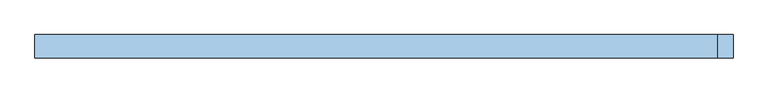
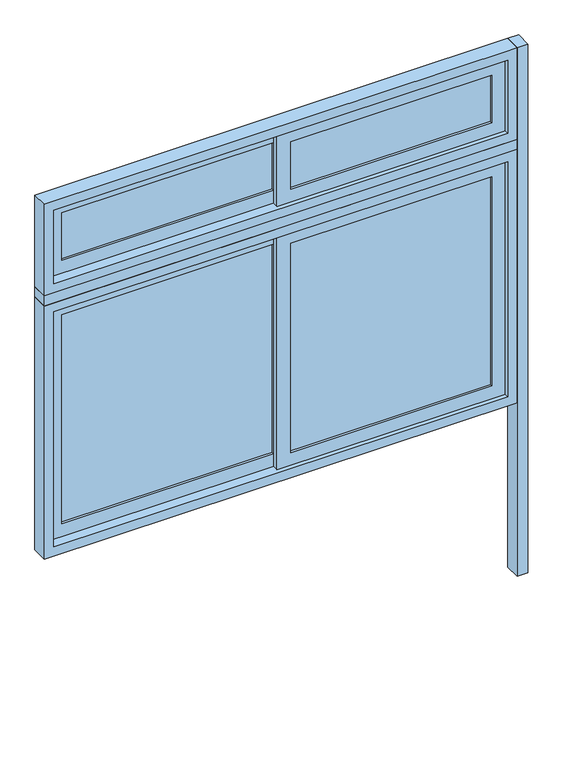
"""IFC4 building model written with IfcOpenShell, lengths in millimetres: window geometry, A4 Cerramiento aula Exterior_vidrios corredizos : A4 Cerramiento aula Exterior_vidrios corredizos."""

from ifc_helpers import new_model, si_unit, frame, origin, origin_with_axes, place, context, project, spatial, polyline, outline, extrude, source, transform, mapped, element, save


def window_2fd942e6(model_context):
    return source(origin(), model_context, "Body", "SweptSolid", [
        extrude(outline(polyline([(1125.0, -92.0), (1075.0, -92.0), (1075.0, -17.0), (1125.0, -17.0), (1125.0, -92.0)])), origin_with_axes(), (0.0, 0.0, 1.0), 2600.0),
        extrude(outline(polyline([(-31.5, -28.0), (-31.5, -34.0), (-1017.0, -34.0), (-1017.0, -28.0), (-31.5, -28.0)])), frame((0.0, 0.0, 2258.0), z_axis=(0.0, 0.0, 1.0), x_axis=(1.0, 0.0, 0.0)), (0.0, 0.0, 1.0), 234.0),
        extrude(outline(polyline([(-31.5, -28.0), (-31.5, -34.0), (-1017.0, -34.0), (-1017.0, -28.0), (-31.5, -28.0)])), frame((0.0, 0.0, 963.0), z_axis=(0.0, 0.0, 1.0), x_axis=(1.0, 0.0, 0.0)), (0.0, 0.0, 1.0), 1029.0),
        extrude(outline(polyline([(967.0, -56.0), (967.0, -62.0), (31.5, -62.0), (31.5, -56.0), (967.0, -56.0)])), frame((0.0, 0.0, 2258.0), z_axis=(0.0, 0.0, 1.0), x_axis=(1.0, 0.0, 0.0)), (0.0, 0.0, 1.0), 234.0),
        extrude(outline(polyline([(967.0, -56.0), (967.0, -62.0), (31.5, -62.0), (31.5, -56.0), (967.0, -56.0)])), frame((0.0, 0.0, 963.0), z_axis=(0.0, 0.0, 1.0), x_axis=(1.0, 0.0, 0.0)), (0.0, 0.0, 1.0), 1029.0),
        extrude(outline(polyline([(2555.0, -1080.0), (2195.0, -1080.0), (2195.0, 31.5), (2555.0, 31.5), (2555.0, -1080.0)]), holes=[polyline([(2258.0, -1017.0), (2492.0, -1017.0), (2492.0, -31.5), (2258.0, -31.5), (2258.0, -1017.0)])]), frame((0.0, -45.0, 0.0), z_axis=(0.0, 1.0, 0.0), x_axis=(0.0, 0.0, 1.0)), (0.0, 0.0, 1.0), 28.0),
        extrude(outline(polyline([(2055.0, -1080.0), (900.0, -1080.0), (900.0, 31.5), (2055.0, 31.5), (2055.0, -1080.0)]), holes=[polyline([(963.0, -1017.0), (1992.0, -1017.0), (1992.0, -31.5), (963.0, -31.5), (963.0, -1017.0)])]), frame((0.0, -45.0, 0.0), z_axis=(0.0, 1.0, 0.0), x_axis=(0.0, 0.0, 1.0)), (0.0, 0.0, 1.0), 28.0),
        extrude(outline(polyline([(2195.0, -31.5), (2195.0, 1030.0), (2555.0, 1030.0), (2555.0, -31.5), (2195.0, -31.5)]), holes=[polyline([(2492.0, 31.5), (2492.0, 967.0), (2258.0, 967.0), (2258.0, 31.5), (2492.0, 31.5)])]), frame((0.0, -73.0, 0.0), z_axis=(0.0, 1.0, 0.0), x_axis=(0.0, 0.0, 1.0)), (0.0, 0.0, 1.0), 28.0),
        extrude(outline(polyline([(900.0, -31.5), (900.0, 1030.0), (2055.0, 1030.0), (2055.0, -31.5), (900.0, -31.5)]), holes=[polyline([(1992.0, 31.5), (1992.0, 967.0), (963.0, 967.0), (963.0, 31.5), (1992.0, 31.5)])]), frame((0.0, -73.0, 0.0), z_axis=(0.0, 1.0, 0.0), x_axis=(0.0, 0.0, 1.0)), (0.0, 0.0, 1.0), 28.0),
        extrude(outline(polyline([(2600.0, -1125.0), (2150.0, -1125.0), (2150.0, 1075.0), (2600.0, 1075.0), (2600.0, -1125.0)]), holes=[polyline([(2555.0, -1080.0), (2555.0, 1030.0), (2195.0, 1030.0), (2195.0, -1080.0), (2555.0, -1080.0)])]), frame((0.0, -92.0, 0.0), z_axis=(0.0, 1.0, 0.0), x_axis=(0.0, 0.0, 1.0)), (0.0, 0.0, 1.0), 75.0),
        extrude(outline(polyline([(2100.0, -1125.0), (855.0, -1125.0), (855.0, 1075.0), (2100.0, 1075.0), (2100.0, -1125.0)]), holes=[polyline([(2055.0, -1080.0), (2055.0, 1030.0), (900.0, 1030.0), (900.0, -1080.0), (2055.0, -1080.0)])]), frame((0.0, -92.0, 0.0), z_axis=(0.0, 1.0, 0.0), x_axis=(0.0, 0.0, 1.0)), (0.0, 0.0, 1.0), 75.0),
        extrude(outline(polyline([(1075.0, -17.0), (1075.0, -92.0), (-1125.0, -92.0), (-1125.0, -17.0), (1075.0, -17.0)])), frame((0.0, 0.0, 2100.0), z_axis=(0.0, 0.0, 1.0), x_axis=(1.0, 0.0, 0.0)), (0.0, 0.0, 1.0), 50.0),
    ])


if __name__ == "__main__":
    model = new_model("IFC4")
    model_context = context("Model", 3, world=origin())
    ifc_project = project(units=[si_unit("LENGTHUNIT", "METRE", prefix="MILLI")], contexts=[model_context])
    site = spatial("IfcSite", under=ifc_project)
    building = spatial("IfcBuilding", under=site)
    placement = place(None, origin())
    window_shape = window_2fd942e6(model_context)
    element("IfcWindow", 1, ObjectType="A4 Cerramiento aula Exterior_vidrios corredizos : A4 Cerramiento aula Exterior_vidrios corredizos", at=placement, inside=building, context=model_context, shape_type="MappedRepresentation", body=[
        mapped(window_shape, transform((0.0, 0.0, 0.0), x_axis=(1.0, 0.0, 0.0), y_axis=(0.0, 1.0, 0.0), z_axis=(0.0, 0.0, 1.0))),
    ])
    save(model, "model.ifc")
